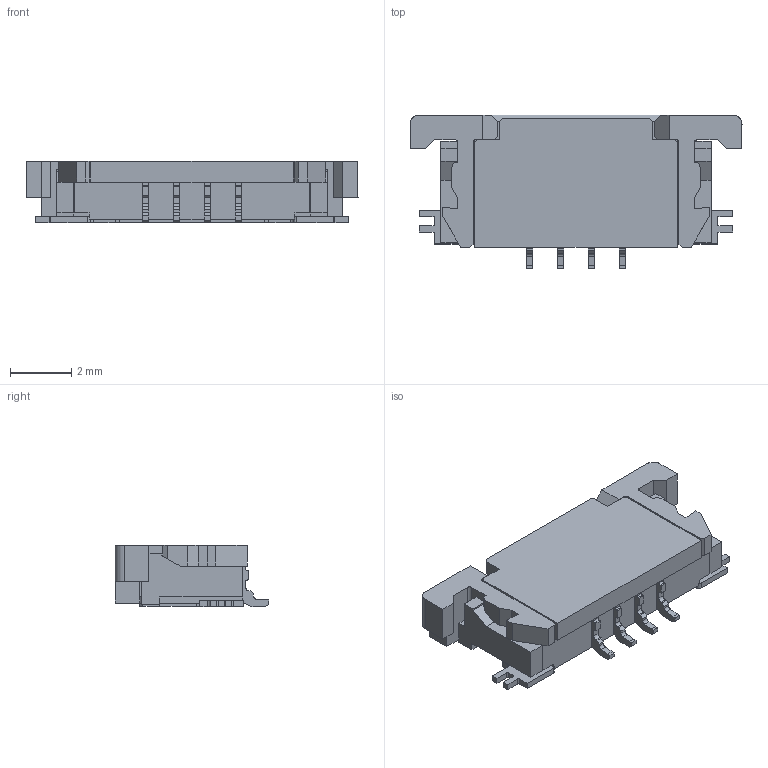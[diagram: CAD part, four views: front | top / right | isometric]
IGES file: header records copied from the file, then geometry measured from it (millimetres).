
Start section: SolidWorks IGES file using analytic representation for surfaces
Bounding box: 10.8 x 5 x 2 mm (x, y, z)
Surface area: 202.2 mm2 (no closed solid volume)
Topology: 0 solids, 0 shells, 261 faces, 1688 edges, 1680 vertices
Faces by surface type: bspline 225, revolution 36
